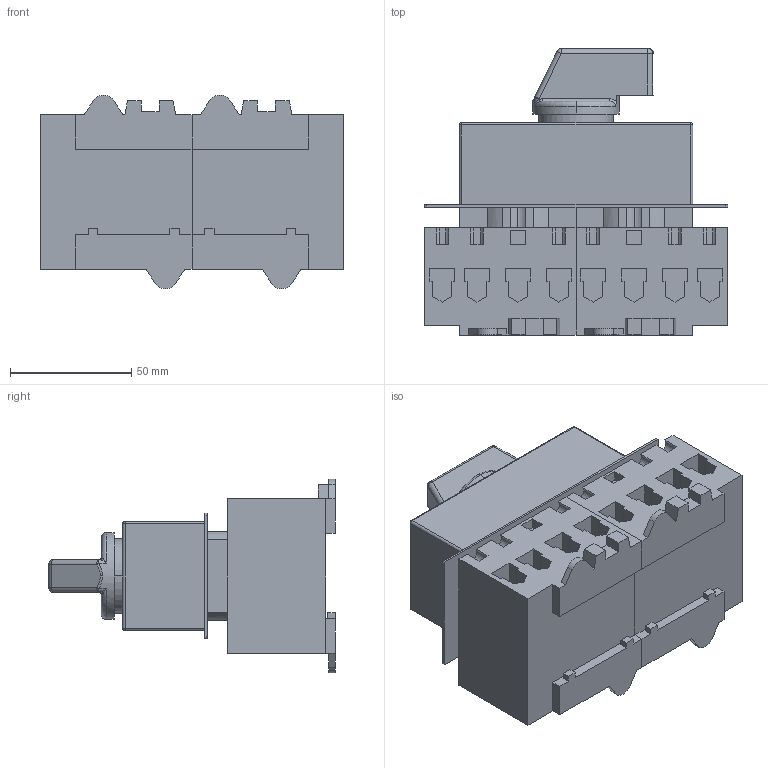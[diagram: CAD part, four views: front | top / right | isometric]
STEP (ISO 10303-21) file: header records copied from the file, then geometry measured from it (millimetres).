
FILE_DESCRIPTION (( 'STEP AP203' ), '1' );
FILE_NAME ('LTS63_80 SMAH1 A8.STEP', '2014-05-13T08:33:15', ( '' ), ( '' ), 'SwSTEP 2.0', 'SolidWorks 2014', '' );
FILE_SCHEMA (( 'CONFIG_CONTROL_DESIGN' ));
Length unit declared in the file: millimetre
Products named in the file (5): G2_64x64_nur griff; LTS63_80 SMAH1 A8; LTS63 VZV A4_Schaltkörper; LTS63 VZV A4_Schaltkörper L; Abdeckung_Schlitzverteiler_Umschalter_LT
Assembly tree (4 placements, depth 2):
  LTS63_80 SMAH1 A8
    LTS63 VZV A4_Schaltkörper
    LTS63 VZV A4_Schaltkörper L
    Abdeckung_Schlitzverteiler_Umschalter_LT
    G2_64x64_nur griff
Bounding box: 125.4 x 118.3 x 80 mm (x, y, z)
Volume: 501960.2 mm3; surface area: 89712.1 mm2
Topology: 4 solids, 4 shells, 484 faces, 1295 edges, 833 vertices
Faces by surface type: plane 322, cylinder 108, cone 32, sphere 10, bspline 8, torus 4
Entity records: 15723 total; most frequent: CARTESIAN_POINT 2939, ORIENTED_EDGE 2570, DIRECTION 2510, EDGE_CURVE 1285, VECTOR 990, LINE 990, VERTEX_POINT 833, AXIS2_PLACEMENT_3D 760
